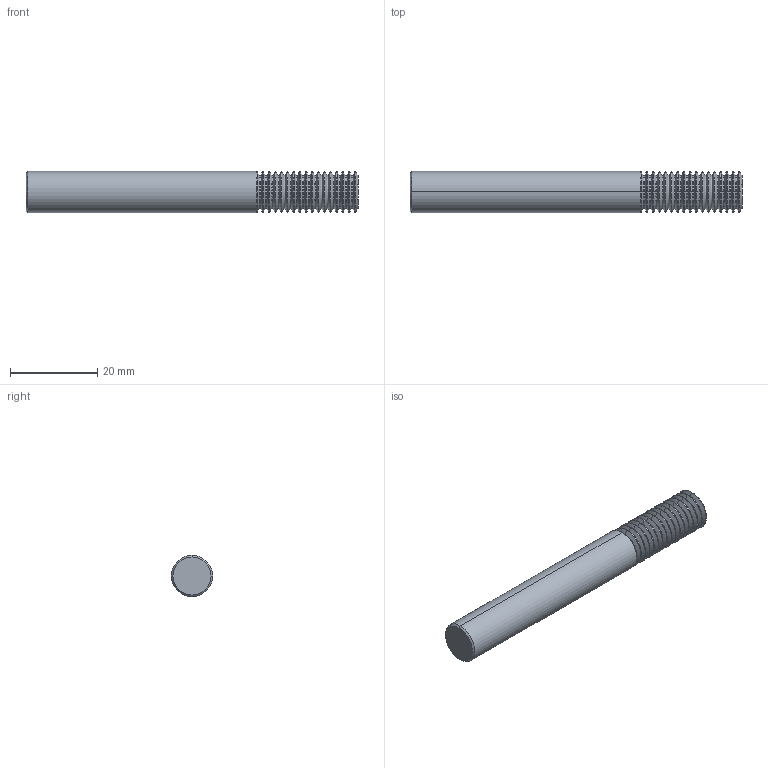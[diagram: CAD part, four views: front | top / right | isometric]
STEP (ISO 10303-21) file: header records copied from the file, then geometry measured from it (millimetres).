
FILE_DESCRIPTION (( 'STEP AP203' ), '1' );
FILE_NAME ('TMI370-18H.STEP', '2021-09-16T18:23:09', ( '' ), ( '' ), 'SwSTEP 2.0', 'SolidWorks 2020', '' );
FILE_SCHEMA (( 'CONFIG_CONTROL_DESIGN' ));
Length unit declared in the file: inch
Products named in the file (1): TMI370-18H
Bounding box: 76.2 x 9.52 x 9.52 mm (x, y, z)
Volume: 5070 mm3; surface area: 2758.7 mm2
Topology: 1 solids, 1 shells, 142 faces, 282 edges, 142 vertices
Faces by surface type: cylinder 70, cone 70, plane 2
Entity records: 3623 total; most frequent: DIRECTION 710, CARTESIAN_POINT 567, ORIENTED_EDGE 564, AXIS2_PLACEMENT_3D 285, EDGE_CURVE 282, EDGE_LOOP 142, CIRCLE 142, ADVANCED_FACE 142
